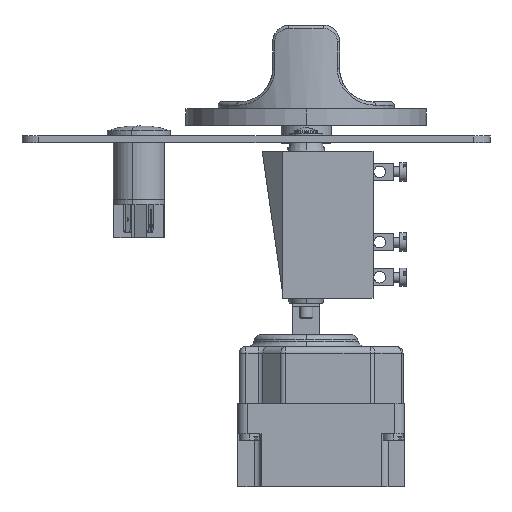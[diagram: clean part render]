
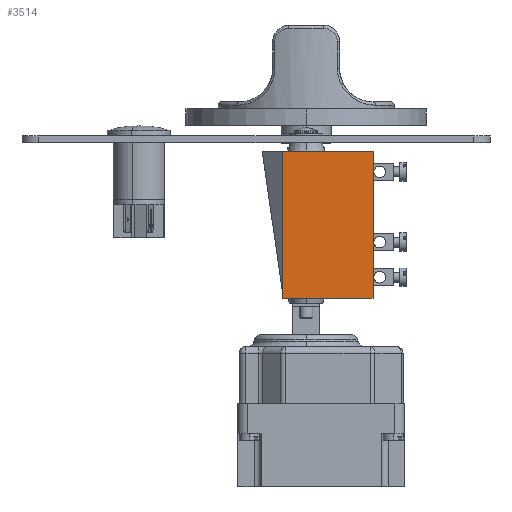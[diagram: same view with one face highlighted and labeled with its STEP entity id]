
A CAD part, front view. The second image highlights one B-rep face of the part: STEP entity #3514.
In plain terms, the highlighted planar face has unit normal (0, -1, 0).
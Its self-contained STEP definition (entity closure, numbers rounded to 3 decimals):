
#2758 = LINE ( 'NONE', #25567, #13528 ) ;
#3185 = PLANE ( 'NONE',  #36090 ) ;
#3514 = ADVANCED_FACE ( 'NONE', ( #27267 ), #3185, .T. ) ;
#4562 = CARTESIAN_POINT ( 'NONE',  ( -7., -23., -46.5 ) ) ;
#7931 = DIRECTION ( 'NONE',  ( 0., 0., 1. ) ) ;
#10164 = DIRECTION ( 'NONE',  ( 1., 0., 0. ) ) ;
#10224 = ORIENTED_EDGE ( 'NONE', *, *, #19664, .F. ) ;
#10640 = CARTESIAN_POINT ( 'NONE',  ( 20., -23., -46.5 ) ) ;
#11434 = LINE ( 'NONE', #4562, #15008 ) ;
#12233 = CARTESIAN_POINT ( 'NONE',  ( 20., -23., -2.5 ) ) ;
#12757 = ORIENTED_EDGE ( 'NONE', *, *, #18307, .F. ) ;
#13528 = VECTOR ( 'NONE', #10164, 1000. ) ;
#13897 = DIRECTION ( 'NONE',  ( 0., 0., -1. ) ) ;
#14546 = CARTESIAN_POINT ( 'NONE',  ( 20., -23., -46.5 ) ) ;
#15008 = VECTOR ( 'NONE', #7931, 1000. ) ;
#15556 = LINE ( 'NONE', #10640, #20463 ) ;
#16561 = VERTEX_POINT ( 'NONE', #31169 ) ;
#17347 = EDGE_LOOP ( 'NONE', ( #28317, #12757, #10224, #17497 ) ) ;
#17497 = ORIENTED_EDGE ( 'NONE', *, *, #29959, .F. ) ;
#17876 = VERTEX_POINT ( 'NONE', #14546 ) ;
#18307 = EDGE_CURVE ( 'NONE', #34834, #17876, #15556, .T. ) ;
#18516 = CARTESIAN_POINT ( 'NONE',  ( -7., -23., -46.5 ) ) ;
#19418 = EDGE_CURVE ( 'NONE', #17876, #33759, #26053, .T. ) ;
#19664 = EDGE_CURVE ( 'NONE', #16561, #34834, #2758, .T. ) ;
#19769 = VECTOR ( 'NONE', #35406, 1000. ) ;
#20191 = CARTESIAN_POINT ( 'NONE',  ( 20., -23., -46.5 ) ) ;
#20432 = DIRECTION ( 'NONE',  ( 0., -1., 0. ) ) ;
#20463 = VECTOR ( 'NONE', #13897, 1000. ) ;
#21447 = CARTESIAN_POINT ( 'NONE',  ( 6.5, -23., -46.5 ) ) ;
#25567 = CARTESIAN_POINT ( 'NONE',  ( 6.5, -23., -2.5 ) ) ;
#26053 = LINE ( 'NONE', #21447, #19769 ) ;
#27267 = FACE_OUTER_BOUND ( 'NONE', #17347, .T. ) ;
#28317 = ORIENTED_EDGE ( 'NONE', *, *, #19418, .F. ) ;
#29959 = EDGE_CURVE ( 'NONE', #33759, #16561, #11434, .T. ) ;
#31169 = CARTESIAN_POINT ( 'NONE',  ( -7., -23., -2.5 ) ) ;
#31674 = DIRECTION ( 'NONE',  ( 0., 0., 1. ) ) ;
#33759 = VERTEX_POINT ( 'NONE', #18516 ) ;
#34834 = VERTEX_POINT ( 'NONE', #12233 ) ;
#35406 = DIRECTION ( 'NONE',  ( -1., 0., 0. ) ) ;
#36090 = AXIS2_PLACEMENT_3D ( 'NONE', #20191, #20432, #31674 ) ;
